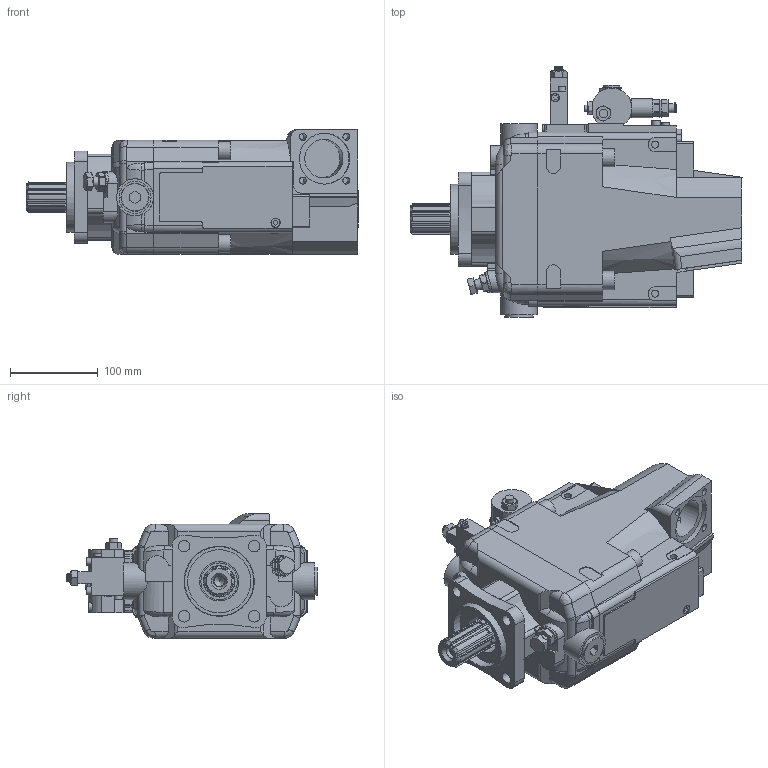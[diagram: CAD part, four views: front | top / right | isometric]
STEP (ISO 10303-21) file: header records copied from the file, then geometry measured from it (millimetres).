
FILE_DESCRIPTION( ( 'STEP AP214' ), ' ' );
FILE_NAME( 'M:/ZZ/Ablage Allgemein/Ablage SNR/V60N Schnelllieferprogramm/Daten für PowerPoint V60N Schnelllieferprogramm/V60N-130 RDY.stp', '2018-01-17T06:50:57', ( '' ), ( '' ), ' ', 'PARTsolutions', ' ' );
FILE_SCHEMA( ( 'AUTOMOTIVE_DESIGN { 1 0 10303 214 1 1 1 1 }' ) );
Length unit declared in the file: millimetre
Products named in the file (22): 177833823 HAWE V60N-130 R D Y -2; _HAWE V60N-130 R D Y -2; _; _HAWE Keilwelle (V60N-130) -2 -D (DIN) (79-42683); _HAWE G 3/4; _HAWE Schraube 6-kt SLBM M12; _HAWE M6x8-DR10_zsdm6; _HAWE Gehaeuse von Reglerblock  (79 42734); _HAWE ZylSc DIN4762 M5x45; _HAWE Einstellschraube 79-42735, Mutter 6kt M10; _HAWE ZylSchr-DR-M5x6; _HAWE LSNR-Reglerblock 79-42149; _HAWE Schraube 79-41964 DR, Mut-6-kt; _HAWE Schraube 79-41966 DR, Mut-6-kt; _HAWE KD-Ring 1/4 79-93889; _HAWE DIN 908 G1/4; _HAWE ZylSc DIN4762 M6x45; _HAWE Mutter-Stiftschraube M10; _HAWE Verschlussplatte 79-42145; _HAWE ZylSc DIN4762 M4x12_2a; _HAWE M4x10; _HAWE M14x100
Assembly tree (35 placements, depth 2):
  177833823 HAWE V60N-130 R D Y -2
    _HAWE V60N-130 R D Y -2
    _
    _HAWE Keilwelle (V60N-130) -2 -D (DIN) (79-42683)
    _HAWE G 3/4
    _HAWE Schraube 6-kt SLBM M12
    _HAWE M6x8-DR10_zsdm6  x4
    _HAWE Gehaeuse von Reglerblock  (79 42734)
    _HAWE ZylSc DIN4762 M5x45  x2
    _HAWE Einstellschraube 79-42735, Mutter 6kt M10
    _HAWE ZylSchr-DR-M5x6  x6
    _HAWE LSNR-Reglerblock 79-42149
    _HAWE Schraube 79-41964 DR, Mut-6-kt
    _HAWE Schraube 79-41966 DR, Mut-6-kt
    _HAWE KD-Ring 1/4 79-93889
    _HAWE DIN 908 G1/4
    _HAWE ZylSc DIN4762 M6x45  x2
    _HAWE Mutter-Stiftschraube M10
    _HAWE Verschlussplatte 79-42145
    _HAWE ZylSc DIN4762 M4x12_2a  x2
    _HAWE M4x10
    _HAWE M14x100  x4
Bounding box: 378.5 x 286 x 142 mm (x, y, z)
Volume: 4053325.3 mm3; surface area: 562663.1 mm2
Topology: 35 solids, 35 shells, 1329 faces, 3124 edges, 2031 vertices
Faces by surface type: plane 750, cylinder 460, cone 93, torus 14, bspline 8, sphere 4
Full cylindrical faces by diameter (mm): 2.5 x1, 2.6 x1, 2.8 x6, 3 x2, 3.2 x4, 3.5 x2, 4 x6, 4.4 x2, 5 x17, 5.4 x2, 5.5 x1, 6 x13, 6.4 x2, 6.5 x1, 6.8 x1, 7 x10, 7.5 x6, 7.98 x1, 8 x7, 8.5 x16, 8.6 x1, 9 x4, 9.5 x6, 9.9 x4, 10 x13, 10.5 x6, 11 x3, 12 x5, 13 x6, 13.16 x3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
Entity records: 44696 total; most frequent: CARTESIAN_POINT 9137, DIRECTION 5490, ORIENTED_EDGE 4992, EDGE_CURVE 2496, AXIS2_PLACEMENT_3D 2122, VERTEX_POINT 1745, EDGE_LOOP 1561, FACE_OUTER_BOUND 1325
